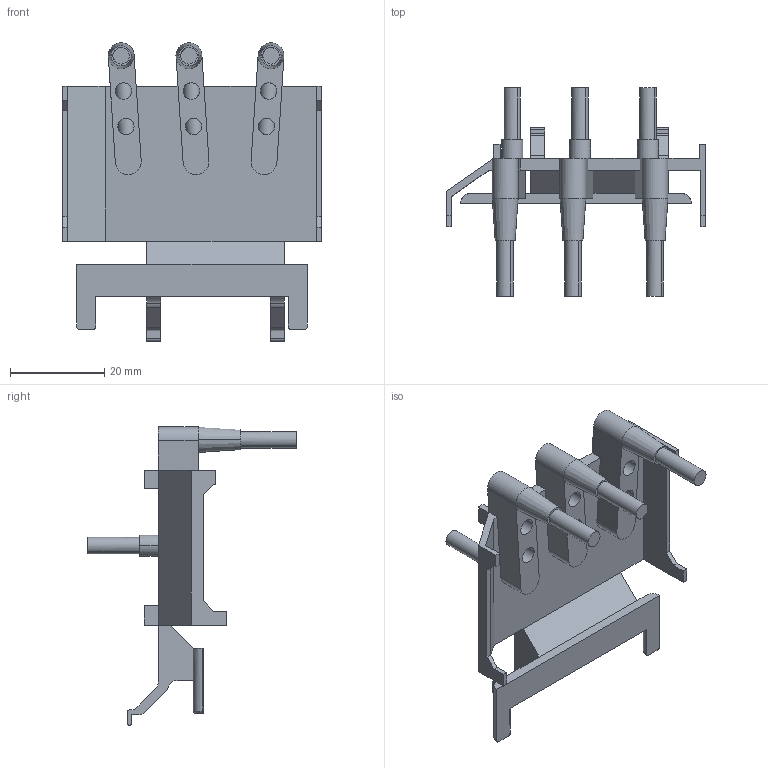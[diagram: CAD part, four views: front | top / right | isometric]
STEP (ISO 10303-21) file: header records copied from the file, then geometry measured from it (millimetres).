
FILE_DESCRIPTION((''),'2;1');
FILE_NAME('12M90036G01-330-CMS240A','2023-07-17T11:37:52',('design1'),(''),'CREO PARAMETRIC BY PTC INC, 2022284','CREO PARAMETRIC BY PTC INC, 2022284','');
FILE_SCHEMA(('CONFIG_CONTROL_DESIGN'));
Length unit declared in the file: millimetre
Products named in the file (1): 12M90036G01-330-CMS240A
Bounding box: 55 x 44.3 x 63.4 mm (x, y, z)
Volume: 10820.7 mm3; surface area: 9958.6 mm2
Topology: 1 solids, 19 shells, 217 faces, 582 edges, 406 vertices
Faces by surface type: plane 93, cylinder 92, cone 30, torus 2
Entity records: 7204 total; most frequent: CARTESIAN_POINT 1816, ORIENTED_EDGE 1140, DIRECTION 1046, EDGE_CURVE 570, VERTEX_POINT 406, AXIS2_PLACEMENT_3D 370, VECTOR 306, LINE 306
